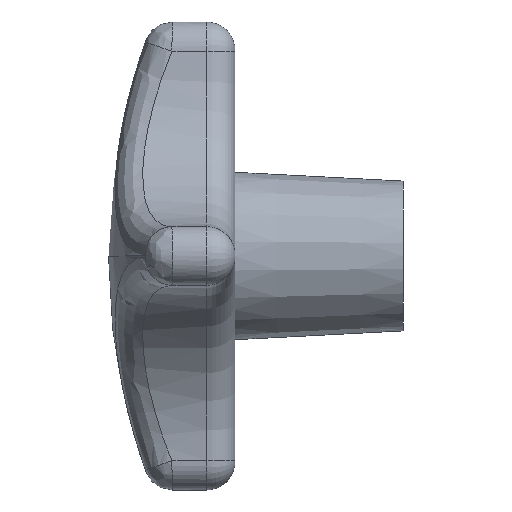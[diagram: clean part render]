
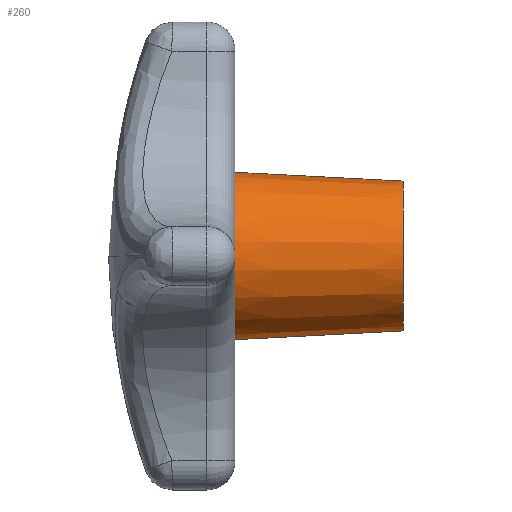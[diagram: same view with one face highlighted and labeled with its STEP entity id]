
A CAD part, left-side view. The second image highlights one B-rep face of the part: STEP entity #260.
In plain terms, the highlighted conical face has half-angle 3 degrees and reference radius 16 mm.
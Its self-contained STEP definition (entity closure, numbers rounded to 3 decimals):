
#249 = EDGE_LOOP ( 'NONE', ( #1035, #1040, #1042, #1038 ) ) ;
#258 = EDGE_CURVE ( 'NONE', #330, #301, #4163, .T. ) ;
#260 = ADVANCED_FACE ( 'NONE', ( #4215 ), #4214, .T. ) ;
#298 = EDGE_CURVE ( 'NONE', #339, #301, #4231, .T. ) ;
#301 = VERTEX_POINT ( 'NONE', #4224 ) ;
#330 = VERTEX_POINT ( 'NONE', #4299 ) ;
#339 = VERTEX_POINT ( 'NONE', #4297 ) ;
#353 = VERTEX_POINT ( 'NONE', #4296 ) ;
#354 = EDGE_CURVE ( 'NONE', #353, #330, #4295, .T. ) ;
#1035 = ORIENTED_EDGE ( 'NONE', *, *, #354, .F. ) ;
#1038 = ORIENTED_EDGE ( 'NONE', *, *, #258, .F. ) ;
#1039 = EDGE_CURVE ( 'NONE', #353, #339, #6150, .T. ) ;
#1040 = ORIENTED_EDGE ( 'NONE', *, *, #1039, .T. ) ;
#1042 = ORIENTED_EDGE ( 'NONE', *, *, #298, .T. ) ;
#4159 = DIRECTION ( 'NONE',  ( 0., 0., 1. ) ) ;
#4160 = DIRECTION ( 'NONE',  ( 0., 1., 0. ) ) ;
#4161 = CARTESIAN_POINT ( 'NONE',  ( 0., 0., 0. ) ) ;
#4162 = AXIS2_PLACEMENT_3D ( 'NONE', #4161, #4160, #4159 ) ;
#4163 = CIRCLE ( 'NONE', #4162, 17.887 ) ;
#4209 = DIRECTION ( 'NONE',  ( 0., 0., 1. ) ) ;
#4210 = DIRECTION ( 'NONE',  ( 0., 1., 0. ) ) ;
#4211 = AXIS2_PLACEMENT_3D ( 'NONE', #4213, #4210, #4209 ) ;
#4213 = CARTESIAN_POINT ( 'NONE',  ( 0., -36., 0. ) ) ;
#4214 = CONICAL_SURFACE ( 'NONE', #4211, 16., 0.052 ) ;
#4215 = FACE_OUTER_BOUND ( 'NONE', #249, .T. ) ;
#4224 = CARTESIAN_POINT ( 'NONE',  ( 0., 0., 17.887 ) ) ;
#4228 = DIRECTION ( 'NONE',  ( 0., 0.999, 0.052 ) ) ;
#4229 = VECTOR ( 'NONE', #4228, 1000. ) ;
#4230 = CARTESIAN_POINT ( 'NONE',  ( 0., -36., 16. ) ) ;
#4231 = LINE ( 'NONE', #4230, #4229 ) ;
#4292 = DIRECTION ( 'NONE',  ( 0., 0.999, -0.052 ) ) ;
#4293 = VECTOR ( 'NONE', #4292, 1000. ) ;
#4294 = CARTESIAN_POINT ( 'NONE',  ( 0., -36., -16. ) ) ;
#4295 = LINE ( 'NONE', #4294, #4293 ) ;
#4296 = CARTESIAN_POINT ( 'NONE',  ( 0., -36., -16. ) ) ;
#4297 = CARTESIAN_POINT ( 'NONE',  ( 0., -36., 16. ) ) ;
#4299 = CARTESIAN_POINT ( 'NONE',  ( 0., 0., -17.887 ) ) ;
#6147 = DIRECTION ( 'NONE',  ( 0., 1., 0. ) ) ;
#6148 = CARTESIAN_POINT ( 'NONE',  ( 0., -36., 0. ) ) ;
#6149 = AXIS2_PLACEMENT_3D ( 'NONE', #6148, #6147, #6196 ) ;
#6150 = CIRCLE ( 'NONE', #6149, 16. ) ;
#6196 = DIRECTION ( 'NONE',  ( 0., 0., 1. ) ) ;
